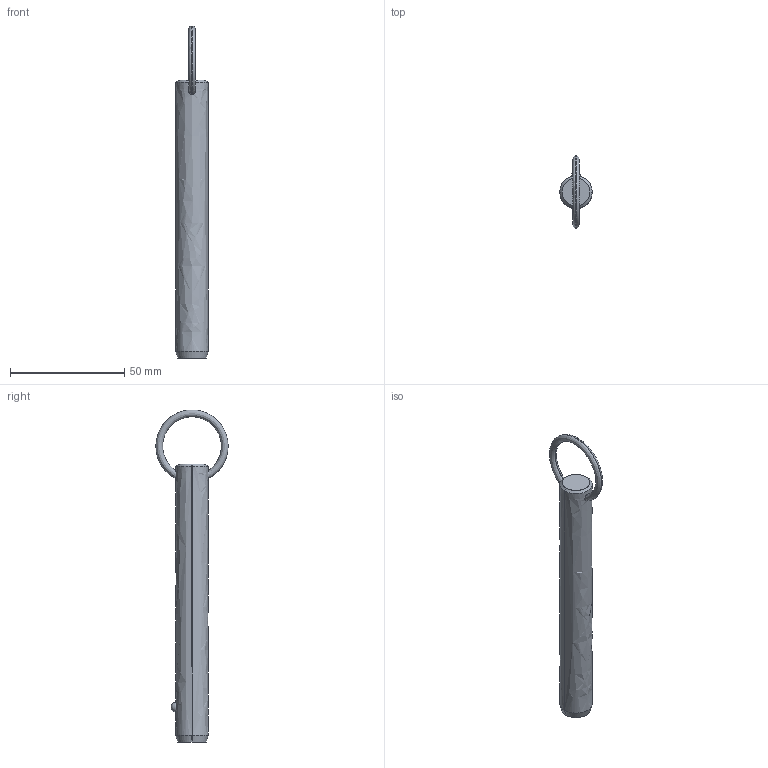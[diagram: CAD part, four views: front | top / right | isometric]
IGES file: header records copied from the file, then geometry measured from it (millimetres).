
Start section: SolidWorks IGES file using analytic representation for surfaces
Global section: file name: C:\Users\liam_\OneDrive\Documents\WORK\Work for WixRoyd\Job Files\J-00019 - Matt Davis CAD Checking\04. CAD Drawings\automotion20190605\P1250.2_v2\P1250.2_v2_20190729_IGES\P1250.056-380.igs; native system: SolidWorks 2017; preprocessor: SolidWorks 2017; author: liam_; date: 190729.232140; units: millimetre
Bounding box: 14.2 x 31.67 x 145.58 mm (x, y, z)
Surface area: 6399.4 mm2 (no closed solid volume)
Topology: 0 solids, 0 shells, 12 faces, 285 edges, 283 vertices
Faces by surface type: revolution 8, bspline 4
